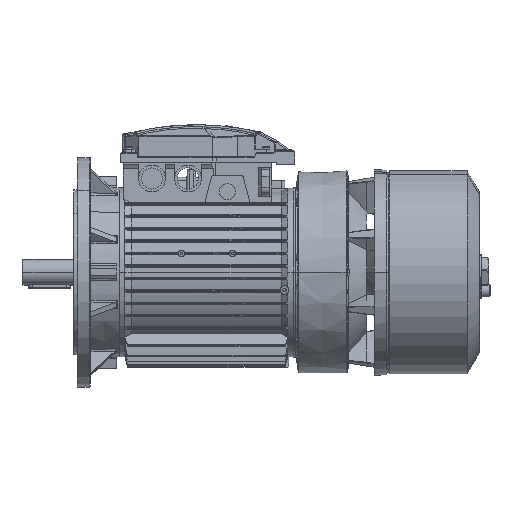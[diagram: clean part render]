
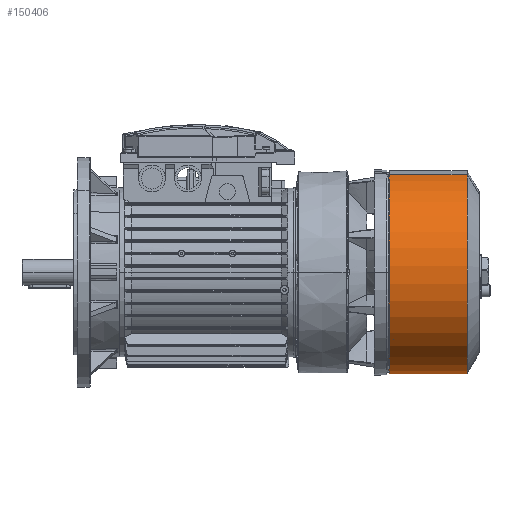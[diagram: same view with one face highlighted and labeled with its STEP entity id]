
A CAD part, top view. The second image highlights one B-rep face of the part: STEP entity #150406.
In plain terms, the highlighted cylindrical face has radius 110.2 mm (diameter 220.4 mm), a partial arc.
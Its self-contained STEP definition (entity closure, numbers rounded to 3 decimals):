
#1463 = VERTEX_POINT ( 'NONE', #23414 ) ;
#2843 = CARTESIAN_POINT ( 'NONE',  ( 0., 13.106, 0. ) ) ;
#16174 = DIRECTION ( 'NONE',  ( 0., 0., 1. ) ) ;
#23414 = CARTESIAN_POINT ( 'NONE',  ( 0., 97.5, 110.2 ) ) ;
#24075 = AXIS2_PLACEMENT_3D ( 'NONE', #129252, #102678, #50349 ) ;
#25505 = EDGE_CURVE ( 'NONE', #30003, #59818, #128029, .T. ) ;
#25726 = EDGE_CURVE ( 'NONE', #170677, #1463, #47632, .T. ) ;
#28774 = EDGE_CURVE ( 'NONE', #59818, #1463, #60781, .T. ) ;
#30003 = VERTEX_POINT ( 'NONE', #44525 ) ;
#31160 = LINE ( 'NONE', #167417, #132117 ) ;
#44525 = CARTESIAN_POINT ( 'NONE',  ( 0., 13.106, -110.2 ) ) ;
#47632 = CIRCLE ( 'NONE', #167734, 110.2 ) ;
#49459 = FACE_OUTER_BOUND ( 'NONE', #106523, .T. ) ;
#50349 = DIRECTION ( 'NONE',  ( 0., 0., 1. ) ) ;
#57984 = EDGE_CURVE ( 'NONE', #30003, #170677, #31160, .T. ) ;
#59818 = VERTEX_POINT ( 'NONE', #87608 ) ;
#60781 = LINE ( 'NONE', #66670, #87525 ) ;
#65204 = ORIENTED_EDGE ( 'NONE', *, *, #57984, .F. ) ;
#65551 = DIRECTION ( 'NONE',  ( 0., 1., 0. ) ) ;
#66670 = CARTESIAN_POINT ( 'NONE',  ( 0., 113.98, 110.2 ) ) ;
#87525 = VECTOR ( 'NONE', #92590, 1000. ) ;
#87608 = CARTESIAN_POINT ( 'NONE',  ( 0., 13.106, 110.2 ) ) ;
#92590 = DIRECTION ( 'NONE',  ( 0., 1., 0. ) ) ;
#94947 = DIRECTION ( 'NONE',  ( 0., 1., 0. ) ) ;
#102678 = DIRECTION ( 'NONE',  ( 0., 1., 0. ) ) ;
#106523 = EDGE_LOOP ( 'NONE', ( #65204, #117364, #108653, #160195 ) ) ;
#108653 = ORIENTED_EDGE ( 'NONE', *, *, #28774, .T. ) ;
#109218 = AXIS2_PLACEMENT_3D ( 'NONE', #2843, #94947, #16174 ) ;
#111299 = CYLINDRICAL_SURFACE ( 'NONE', #24075, 110.2 ) ;
#111325 = CARTESIAN_POINT ( 'NONE',  ( 0., 97.5, -110.2 ) ) ;
#117364 = ORIENTED_EDGE ( 'NONE', *, *, #25505, .T. ) ;
#128029 = CIRCLE ( 'NONE', #109218, 110.2 ) ;
#129252 = CARTESIAN_POINT ( 'NONE',  ( 0., 113.98, 0. ) ) ;
#132117 = VECTOR ( 'NONE', #155277, 1000. ) ;
#144545 = CARTESIAN_POINT ( 'NONE',  ( 0., 97.5, 0. ) ) ;
#150406 = ADVANCED_FACE ( 'NONE', ( #49459 ), #111299, .T. ) ;
#155277 = DIRECTION ( 'NONE',  ( 0., 1., 0. ) ) ;
#157758 = DIRECTION ( 'NONE',  ( 0., 0., 1. ) ) ;
#160195 = ORIENTED_EDGE ( 'NONE', *, *, #25726, .F. ) ;
#167417 = CARTESIAN_POINT ( 'NONE',  ( 0., 113.98, -110.2 ) ) ;
#167734 = AXIS2_PLACEMENT_3D ( 'NONE', #144545, #65551, #157758 ) ;
#170677 = VERTEX_POINT ( 'NONE', #111325 ) ;
